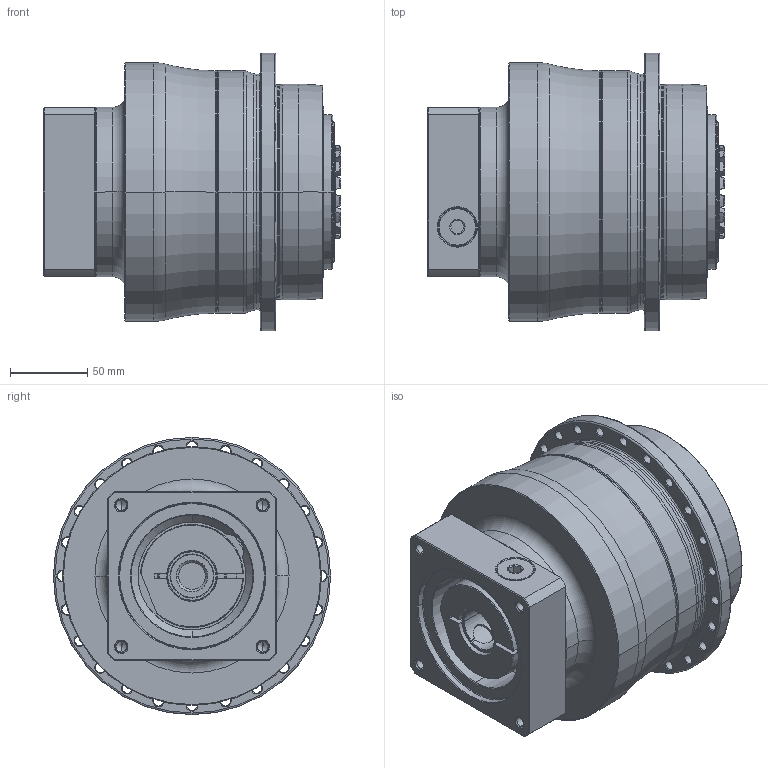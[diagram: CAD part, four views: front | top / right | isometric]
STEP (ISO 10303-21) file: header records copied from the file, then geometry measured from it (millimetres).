
FILE_DESCRIPTION((''),'2;1');
FILE_NAME('APC140_2ST_28-P0409610201_ASM','2018-06-28T',('d01226'),(''),'PRO/ENGINEER BY PARAMETRIC TECHNOLOGY CORPORATION, 2008410','PRO/ENGINEER BY PARAMETRIC TECHNOLOGY CORPORATION, 2008410','');
FILE_SCHEMA(('CONFIG_CONTROL_DESIGN'));
Length unit declared in the file: millimetre
Products named in the file (9): P0278501003; P03595D0103; P1317510201; P0503600010; P0912452001; P1211500001; P0409610201; 21711418017; APC140_2ST_28-P0409610201_ASM
Assembly tree (8 placements, depth 2):
  APC140_2ST_28-P0409610201_ASM
    P0278501003
    P03595D0103
    P1317510201
    P0503600010
    P0912452001
    P1211500001
    P0409610201
    21711418017
Bounding box: 193.1 x 180 x 180 mm (x, y, z)
Volume: 2839910.3 mm3; surface area: 317604.7 mm2
Topology: 9 solids, 19 shells, 673 faces, 1625 edges, 991 vertices
Faces by surface type: cone 223, cylinder 211, plane 122, torus 103, bspline 14
Entity records: 25117 total; most frequent: CARTESIAN_POINT 8983, DIRECTION 3605, ORIENTED_EDGE 3172, EDGE_CURVE 1607, AXIS2_PLACEMENT_3D 1565, VERTEX_POINT 991, CIRCLE 879, EDGE_LOOP 776
